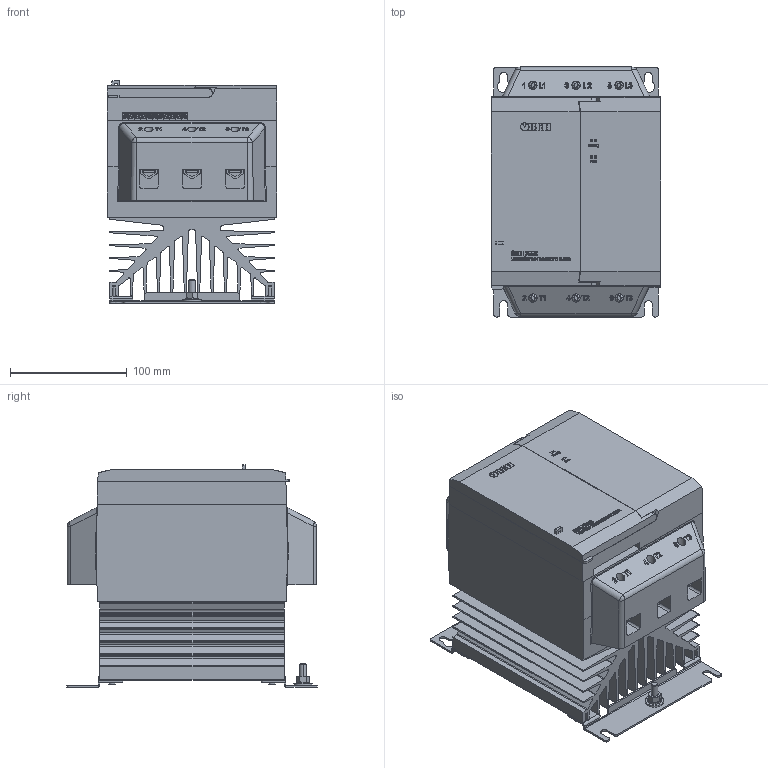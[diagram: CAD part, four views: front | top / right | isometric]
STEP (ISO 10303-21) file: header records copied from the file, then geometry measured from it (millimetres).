
FILE_DESCRIPTION (( 'STEP AP214' ), '1' );
FILE_NAME ('3D ìîäåëü ÓÏÏ2-55Ê-Â.STEP', '2017-07-15T15:43:32', ( '' ), ( '' ), 'SwSTEP 2.0', 'SolidWorks 2014', '' );
FILE_SCHEMA (( 'AUTOMOTIVE_DESIGN' ));
Length unit declared in the file: millimetre
Products named in the file (13): plain washer 6903 type ab_din_DIN 6903-A7.15; hex nut style 1 gradeab_din_Hexagon Nut ISO 4032 - M6 - D - N; Êëåììà_14õ9,8õ5ìì; Ðàäèàòîð ÓÏÏ2-55Ê-Â; 3D ìîäåëü ÓÏÏ2-55Ê-Â; socket head thin cap screw_din_DIN 7984 - M3 x 10 --- 8.5N; Ïàíåëü âíóòðåííÿÿ; Êîðïóñ ÓÏÏ2-55Ê-Â; curved spring lock washer_din_Spring washer DIN 128 - A6; Êðûøêà ÓÏÏ2-55Ê-Â; 冓踖樦 6pin; Êðåïåæ ÓÏÏ2-55Ê-Â_âåðõ; Êðåïåæ ÓÏÏ2-55Ê-Â_íèç
Assembly tree (25 placements, depth 2):
  3D ìîäåëü ÓÏÏ2-55Ê-Â
    Êîðïóñ ÓÏÏ2-55Ê-Â
    Ðàäèàòîð ÓÏÏ2-55Ê-Â
    Êðåïåæ ÓÏÏ2-55Ê-Â_íèç
    socket head thin cap screw_din_DIN 7984 - M3 x 10 --- 8.5N  x4
    Ïàíåëü âíóòðåííÿÿ
    Êëåììà_14õ9,8õ5ìì  x11
    冓踖樦 6pin
    Êðåïåæ ÓÏÏ2-55Ê-Â_âåðõ
    Êðûøêà ÓÏÏ2-55Ê-Â
    hex nut style 1 gradeab_din_Hexagon Nut ISO 4032 - M6 - D - N
    plain washer 6903 type ab_din_DIN 6903-A7.15
    curved spring lock washer_din_Spring washer DIN 128 - A6
Bounding box: 145 x 214.4 x 191 mm (x, y, z)
Volume: 3526645.8 mm3; surface area: 546936.4 mm2
Topology: 77 solids, 77 shells, 5292 faces, 14219 edges, 9398 vertices
Faces by surface type: plane 2654, bspline 2078, cylinder 492, cone 34, torus 30, sphere 4
Entity records: 213649 total; most frequent: CARTESIAN_POINT 67361, ORIENTED_EDGE 25718, DIRECTION 14531, EDGE_CURVE 12859, VERTEX_POINT 8519, VECTOR 7835, LINE 7835, EDGE_LOOP 5024
